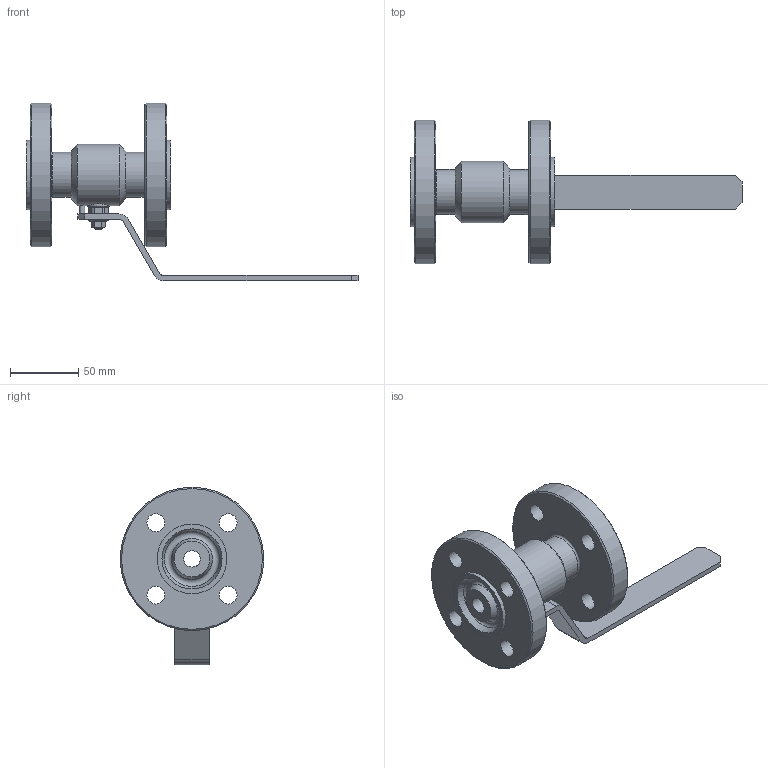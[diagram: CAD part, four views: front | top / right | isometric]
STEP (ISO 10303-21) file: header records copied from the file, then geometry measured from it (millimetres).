
FILE_DESCRIPTION(('STEP AP203'), '1');
FILE_NAME('ZARD 015.063.27.P.stp', '2013-12-05T09:01:39', ('1'), ('1'), 'ASCON STEP Converter 1.3', 'Kompas 3D', '');
FILE_SCHEMA(('CONFIG_CONTROL_DESIGN','SUPPORT_RESOURCE_SCHEMA'));
Length unit declared in the file: millimetre
Products named in the file (1): 61
Bounding box: 243 x 105 x 130 mm (x, y, z)
Volume: 351638.9 mm3; surface area: 78770.2 mm2
Topology: 1 solids, 3 shells, 169 faces, 387 edges, 238 vertices
Faces by surface type: plane 89, cylinder 45, cone 30, torus 4, bspline 1
Full cylindrical faces by diameter (mm): 4 x2, 6 x2, 8.673 x1, 9 x1, 10 x1, 10.1 x1, 12 x2, 13 x8, 14.2 x1, 15.8 x1, 16 x3, 25.4 x1, 27 x1, 33 x2, 45 x1, 51 x2, 105 x2
Entity records: 5893 total; most frequent: CARTESIAN_POINT 1861, DIRECTION 864, ORIENTED_EDGE 772, EDGE_CURVE 386, AXIS2_PLACEMENT_3D 334, VERTEX_POINT 238, EDGE_LOOP 214, LINE 196
